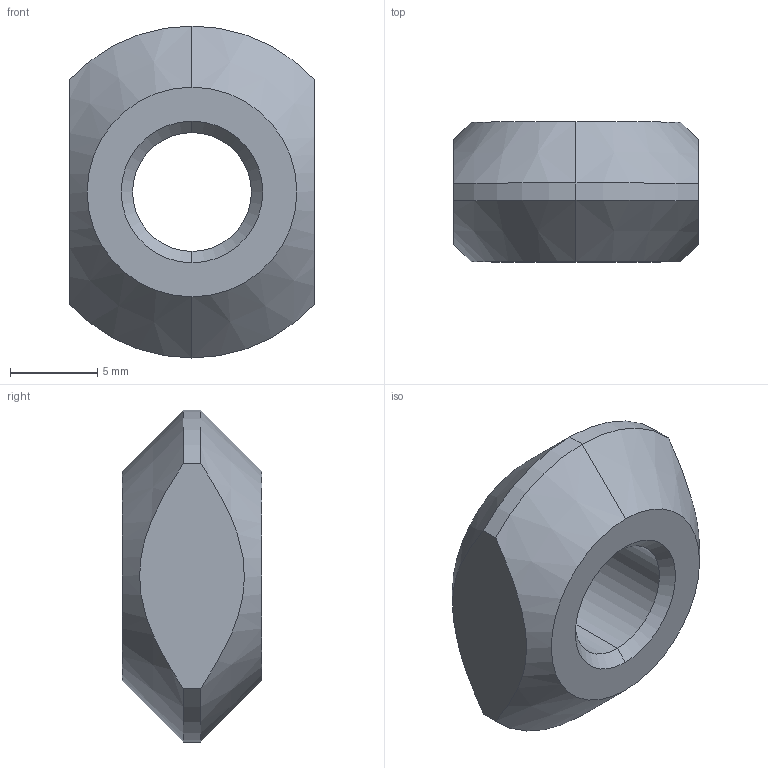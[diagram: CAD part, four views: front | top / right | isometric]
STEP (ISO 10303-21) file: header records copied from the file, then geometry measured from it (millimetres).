
FILE_DESCRIPTION (( 'STEP AP214' ), '1' );
FILE_NAME ('JGLM-20.STEP', '2021-03-10T02:14:02', ( 'Dell' ), ( 'Dell' ), 'SwSTEP 2.0', 'SolidWorks 2018', '' );
FILE_SCHEMA (( 'AUTOMOTIVE_DESIGN' ));
Length unit declared in the file: millimetre
Products named in the file (1): JGLM-20
Bounding box: 14 x 8 x 19 mm (x, y, z)
Volume: 1197 mm3; surface area: 806.8 mm2
Topology: 1 solids, 1 shells, 17 faces, 39 edges, 24 vertices
Faces by surface type: cone 8, cylinder 5, plane 4
Entity records: 629 total; most frequent: CARTESIAN_POINT 173, DIRECTION 91, ORIENTED_EDGE 78, EDGE_CURVE 39, AXIS2_PLACEMENT_3D 38, VERTEX_POINT 24, CIRCLE 20, EDGE_LOOP 19
